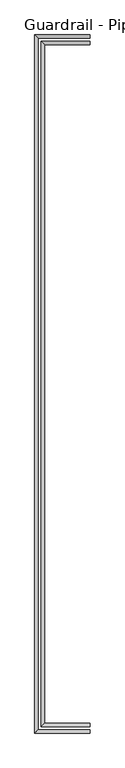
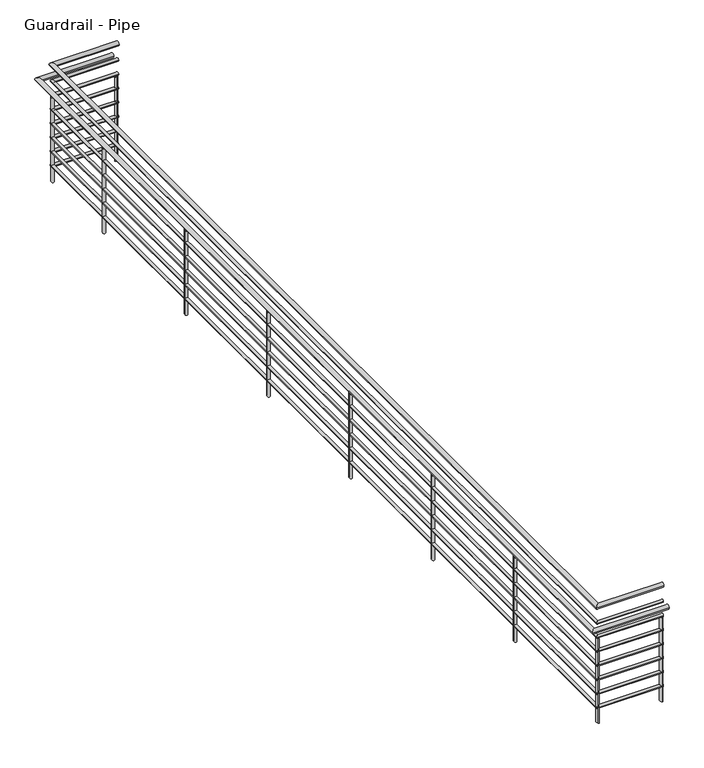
"""IFC4 building model written with IfcOpenShell, lengths in millimetres: railing geometry, Guardrail - Pipe."""

import ifcopenshell
import ifcopenshell.guid

model = None  # the IFC model being written
_history = None  # IfcOwnerHistory: only IFC2X3 demands one
_inside = {}  # id of a spatial element -> (the spatial element, [elements in it])
_under = {}  # id of a project, library or spatial element -> (it, [spatial elements below it])
_declared = {}  # id of a project -> (the project, [libraries it declares])
_typed = {}  # id of a type object -> (the type object, [elements of that type])
_made_of = {}  # id of a material, layer set ... -> (it, [elements and type objects made of it])


def new_model(schema):
    """Start an empty IFC model of exactly this schema.

    Asked for "IFC4X3", IfcOpenShell would pick the latest addendum, in which some entities
    have other attributes; the version numbers below select the first issue.
    IFC2X3 requires an IfcOwnerHistory on every rooted entity: one is made here for all.
    """
    global model, _history
    if schema == "IFC4X3":
        model = ifcopenshell.file(schema_version=(4, 3, 0, 0))
    else:
        model = ifcopenshell.file(schema=schema)
    _inside.clear()
    _under.clear()
    _declared.clear()
    _typed.clear()
    _made_of.clear()
    _history = None
    if model.schema == "IFC2X3":
        org = make("IfcOrganization", Name="unknown")
        user = make(
            "IfcPersonAndOrganization",
            ThePerson=make("IfcPerson", FamilyName="unknown"),
            TheOrganization=org,
        )
        app = make(
            "IfcApplication",
            ApplicationDeveloper=org,
            Version="unknown",
            ApplicationFullName="unknown",
            ApplicationIdentifier="unknown",
        )
        _history = make(
            "IfcOwnerHistory",
            OwningUser=user,
            OwningApplication=app,
            ChangeAction="ADDED",
            CreationDate=0,
        )
    return model


def make(cls, **values):
    """One entity of the class cls with the attributes given. An attribute that is None is left unset."""
    return model.create_entity(
        cls, **{name: value for name, value in values.items() if value is not None}
    )


def rooted(cls, **values):
    """An entity with a GlobalId (a new one), such as an element, a storey or a relation."""
    return make(cls, GlobalId=ifcopenshell.guid.new(), OwnerHistory=_history, **values)


def si_unit(unit_type, name, prefix=None):
    """IfcSIUnit, for example si_unit("LENGTHUNIT", "METRE", prefix="MILLI")."""
    return make("IfcSIUnit", UnitType=unit_type, Prefix=prefix, Name=name)


def assignment(units):
    """IfcUnitAssignment: the units of a project."""
    return None if units is None else make("IfcUnitAssignment", Units=units)


def point(xyz):
    """IfcCartesianPoint."""
    return None if xyz is None else make("IfcCartesianPoint", Coordinates=xyz)


def direction(xyz):
    """IfcDirection."""
    return None if xyz is None else make("IfcDirection", DirectionRatios=xyz)


def frame(location, z_axis=None, x_axis=None):
    """IfcAxis2Placement3D, a coordinate frame: its origin and axes. An axis left out is left unset."""
    return make(
        "IfcAxis2Placement3D",
        Location=point(location),
        Axis=direction(z_axis),
        RefDirection=direction(x_axis),
    )


def origin():
    """The frame at (0, 0, 0) with its axes left unset."""
    return frame((0.0, 0.0, 0.0))


def place(relative_to, where):
    """IfcLocalPlacement: puts the frame where relative to a parent placement (None: the world)."""
    return make(
        "IfcLocalPlacement", PlacementRelTo=relative_to, RelativePlacement=where
    )


def context(
    kind, dimensions, precision=None, world=None, true_north=None, identifier=None
):
    """IfcGeometricRepresentationContext, for example the 3D "Model" context."""
    return make(
        "IfcGeometricRepresentationContext",
        ContextIdentifier=identifier,
        ContextType=kind,
        CoordinateSpaceDimension=dimensions,
        Precision=precision,
        WorldCoordinateSystem=world,
        TrueNorth=true_north,
    )


def project(units=None, contexts=None):
    """IfcProject with its units and contexts."""
    return rooted(
        "IfcProject",
        Name="project",
        RepresentationContexts=contexts,
        UnitsInContext=assignment(units),
    )


def spatial(cls, under=None, at=None, **own):
    """A site, building, storey or space (cls), placed at a placement, below another one or the project."""
    s = rooted(cls, ObjectPlacement=at, **own)
    if under is not None:
        _under.setdefault(under.id(), (under, []))[1].append(s)
    return s


def circle_curve(where, radius):
    """IfcCircle in the frame where."""
    return make("IfcCircle", Position=where, Radius=radius)


def ellipse_curve(where, semi_axis1, semi_axis2):
    """IfcEllipse in the frame where."""
    return make(
        "IfcEllipse", Position=where, SemiAxis1=semi_axis1, SemiAxis2=semi_axis2
    )


def shape(context_of_items, identifier, shape_type, items):
    """IfcShapeRepresentation: the items that make up one representation, for example the "Body"."""
    return make(
        "IfcShapeRepresentation",
        ContextOfItems=context_of_items,
        RepresentationIdentifier=identifier,
        RepresentationType=shape_type,
        Items=items,
    )


def source(mapping_origin, context_of_items, identifier, shape_type, items):
    """IfcRepresentationMap: a shape defined once, which mapped items show again and again."""
    return make(
        "IfcRepresentationMap",
        MappingOrigin=mapping_origin,
        MappedRepresentation=shape(context_of_items, identifier, shape_type, items),
    )


def transform(
    local_origin,
    x_axis=None,
    y_axis=None,
    z_axis=None,
    scale=None,
    scale2=None,
    scale3=None,
    uniform=True,
):
    """IfcCartesianTransformationOperator3D, or its non-uniform kind. x_axis, y_axis, z_axis: its Axis1, 2, 3."""
    if uniform:
        return make(
            "IfcCartesianTransformationOperator3D",
            Axis1=direction(x_axis),
            Axis2=direction(y_axis),
            LocalOrigin=point(local_origin),
            Scale=scale,
            Axis3=direction(z_axis),
        )
    return make(
        "IfcCartesianTransformationOperator3DnonUniform",
        Axis1=direction(x_axis),
        Axis2=direction(y_axis),
        LocalOrigin=point(local_origin),
        Scale=scale,
        Axis3=direction(z_axis),
        Scale2=scale2,
        Scale3=scale3,
    )


def mapped(mapping_source, mapping_target):
    """IfcMappedItem: shows the shape of a source again, moved by a transform."""
    return make(
        "IfcMappedItem", MappingSource=mapping_source, MappingTarget=mapping_target
    )


def made_of(thing, what):
    """Note that an element or type object is made of a material, layer set ...; save() writes the relation."""
    if what is not None:
        _made_of.setdefault(what.id(), (what, []))[1].append(thing)
    return thing


def element(
    cls,
    number,
    at=None,
    inside=None,
    cuts=None,
    type_object=None,
    material=None,
    context=None,
    identifier="Body",
    shape_type=None,
    held_by="IfcProductDefinitionShape",
    body=None,
    shapes=None,
    **own,
):
    """One element of the class cls, such as IfcWall. Its Tag is "e" and its number.

    at: its placement. inside: the storey or other place that contains it. cuts: it is an
    opening in that element (IfcRelVoidsElement). A single representation is given by context,
    identifier, shape_type and body (its items); several are given by shapes. held_by: the class
    of the entity that holds the representations. save() writes the other relations.
    """
    e = rooted(cls, Tag="e%d" % number, ObjectPlacement=at, **own)
    if body is not None:
        shapes = [shape(context, identifier, shape_type, body)]
    if shapes is not None:
        e.Representation = make(held_by, Representations=shapes)
    if inside is not None:
        _inside.setdefault(inside.id(), (inside, []))[1].append(e)
    if cuts is not None:
        rooted(
            "IfcRelVoidsElement", RelatingBuildingElement=cuts, RelatedOpeningElement=e
        )
    if type_object is not None:
        _typed.setdefault(type_object.id(), (type_object, []))[1].append(e)
    return made_of(e, material)


def aggregate(whole, parts):
    """IfcRelAggregates: a whole, such as a stair, and the parts it consists of."""
    return rooted("IfcRelAggregates", RelatingObject=whole, RelatedObjects=parts)


def save(model, path):
    """Write the relations noted so far, then the file.

    IfcRelAggregates (storeys below a building ...), IfcRelContainedInSpatialStructure (elements
    in a storey), IfcRelDefinesByType, IfcRelAssociatesMaterial and IfcRelDeclares: one each for
    every whole, place, type object, material and project.
    """
    for whole, parts in _under.values():
        aggregate(whole, parts)
    for where, things in _inside.values():
        rooted(
            "IfcRelContainedInSpatialStructure",
            RelatedElements=things,
            RelatingStructure=where,
        )
    for kind, things in _typed.values():
        rooted("IfcRelDefinesByType", RelatedObjects=things, RelatingType=kind)
    for what, things in _made_of.values():
        rooted("IfcRelAssociatesMaterial", RelatedObjects=things, RelatingMaterial=what)
    for by, libraries in _declared.values():
        rooted("IfcRelDeclares", RelatingContext=by, RelatedDefinitions=libraries)
    model.write(path)


def plane_surface(at):
    """IfcPlane: the flat surface through the origin of the frame at, square to its z axis."""
    return make("IfcPlane", Position=at)


def cylinder_surface(at, radius):
    """IfcCylindricalSurface: all points at the distance radius from the z axis of the frame at."""
    return make("IfcCylindricalSurface", Position=at, Radius=radius)


def advanced_brep(points, edges, surfaces, faces):
    """IfcAdvancedBrep: a solid bounded by faces that lie on surfaces and meet in shared edges.

    An edge is (start, end): straight between two places in points (the first is 0);
    or (start, end, curve); or (start, end, curve, False) where it runs against its curve.
    A face is (place in surfaces, loops), or (place, loops, False) where it looks against
    its surface's normal. A loop lists edges by number (the first is 1), with a minus sign
    where the edge is run from its end to its start. The first loop is the outer one.
    """
    corners = [point(p) for p in points]
    vertices = [make("IfcVertexPoint", VertexGeometry=c) for c in corners]
    made = []
    for start, end, *more in edges:
        made.append(
            make(
                "IfcEdgeCurve",
                EdgeStart=vertices[start],
                EdgeEnd=vertices[end],
                EdgeGeometry=more[0] if more else make("IfcPolyline", Points=[corners[start], corners[end]]),
                SameSense=more[1] if len(more) > 1 else True,
            )
        )
    hull = []
    for where, loops, *sense in faces:
        bounds = []
        for j, loop in enumerate(loops):
            ring = [make("IfcOrientedEdge", EdgeElement=made[abs(k) - 1], Orientation=k > 0) for k in loop]
            bounds.append(
                make(
                    "IfcFaceOuterBound" if j == 0 else "IfcFaceBound",
                    Bound=make("IfcEdgeLoop", EdgeList=ring),
                    Orientation=True,
                )
            )
        hull.append(make("IfcAdvancedFace", Bounds=bounds, FaceSurface=surfaces[where], SameSense=sense[0] if sense else True))
    return make("IfcAdvancedBrep", Outer=make("IfcClosedShell", CfsFaces=hull))


def guardrail_pipe_c5bc1630(model_context):
    return source(origin(), model_context, "Body", "AdvancedBrep", [
        advanced_brep(
        [(11534.3313551, 10867.95, 4705.35), (11534.3313551, 10906.05, 4705.35), (10956.4813551, 10867.95, 4705.35), (10994.5813551, 10906.05, 4705.35), (10956.4813551, 18983.25, 4705.35), (10994.5813551, 18945.15, 4705.35), (11534.3313551, 18983.25, 4705.35), (11534.3313551, 18945.15, 4705.35)],
        [
            (0, 1, circle_curve(frame((11534.3313551, 10887.0, 4705.35), z_axis=(1.0, 0.0, 0.0), x_axis=(0.0, 1.0, 0.0)), 19.05)),
            (1, 0, circle_curve(frame((11534.3313551, 10887.0, 4705.35), z_axis=(1.0, 0.0, 0.0), x_axis=(0.0, 1.0, 0.0)), 19.05)),
            (0, 2),
            (2, 3, ellipse_curve(frame((10975.5313551, 10887.0, 4705.35), z_axis=(0.7071067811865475, -0.7071067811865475, 0.0), x_axis=(0.7071067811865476, 0.7071067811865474, 0.0)), 26.9407684, 19.05)),
            (3, 1),
            (3, 2, ellipse_curve(frame((10975.5313551, 10887.0, 4705.35), z_axis=(0.7071067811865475, -0.7071067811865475, 0.0), x_axis=(0.7071067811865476, 0.7071067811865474, 0.0)), 26.9407684, 19.05)),
            (2, 4),
            (4, 5, ellipse_curve(frame((10975.5313551, 18964.2, 4705.35), z_axis=(-0.7071067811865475, -0.7071067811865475, 0.0), x_axis=(0.7071067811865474, -0.7071067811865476, 0.0)), 26.9407684, 19.05)),
            (5, 3),
            (5, 4, ellipse_curve(frame((10975.5313551, 18964.2, 4705.35), z_axis=(-0.7071067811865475, -0.7071067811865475, 0.0), x_axis=(0.7071067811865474, -0.7071067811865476, 0.0)), 26.9407684, 19.05)),
            (6, 7, circle_curve(frame((11534.3313551, 18964.2, 4705.35), z_axis=(1.0, 0.0, 0.0), x_axis=(0.0, -1.0, 0.0)), 19.05)),
            (7, 6, circle_curve(frame((11534.3313551, 18964.2, 4705.35), z_axis=(1.0, 0.0, 0.0), x_axis=(0.0, -1.0, 0.0)), 19.05)),
            (4, 6),
            (7, 5),
        ],
        [
            plane_surface(frame((11534.3313551, 10887.0, 4724.4), z_axis=(1.0, 0.0, 0.0), x_axis=(0.0, -1.0, 0.0))),
            cylinder_surface(frame((11534.3313551, 10887.0, 4705.35), z_axis=(1.0, 0.0, 0.0), x_axis=(0.0, 1.0, 0.0)), 19.05),
            cylinder_surface(frame((10975.5313551, 10887.0, 4705.35), z_axis=(0.0, -1.0, 0.0), x_axis=(1.0, 0.0, 0.0)), 19.05),
            plane_surface(frame((11534.3313551, 18964.2, 4724.4), z_axis=(1.0, 0.0, 0.0), x_axis=(0.0, 1.0, 0.0))),
            cylinder_surface(frame((10975.5313551, 18964.2, 4705.35), z_axis=(-1.0, 0.0, 0.0), x_axis=(0.0, -1.0, 0.0)), 19.05),
        ],
        [
            (0, [[1, 2]]),
            (1, [[-1, 3, 4, 5]]),
            (1, [[-2, -5, 6, -3]]),
            (2, [[-4, 7, 8, 9]]),
            (2, [[-6, -9, 10, -7]]),
            (3, [[11, 12]]),
            (4, [[-8, 13, -12, 14]]),
            (4, [[-10, -14, -11, -13]]),
        ],
    ),
        advanced_brep(
        [(11534.3313551, 10874.3, 4559.3), (11534.3313551, 10899.7, 4559.3), (10962.8313551, 10874.3, 4559.3), (10988.2313551, 10899.7, 4559.3), (10962.8313551, 18976.9, 4559.3), (10988.2313551, 18951.5, 4559.3), (11534.3313551, 18976.9, 4559.3), (11534.3313551, 18951.5, 4559.3)],
        [
            (0, 1, circle_curve(frame((11534.3313551, 10887.0, 4559.3), z_axis=(1.0, 0.0, 0.0), x_axis=(0.0, 1.0, 0.0)), 12.7)),
            (1, 0, circle_curve(frame((11534.3313551, 10887.0, 4559.3), z_axis=(1.0, 0.0, 0.0), x_axis=(0.0, 1.0, 0.0)), 12.7)),
            (0, 2),
            (2, 3, ellipse_curve(frame((10975.5313551, 10887.0, 4559.3), z_axis=(0.7071067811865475, -0.7071067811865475, 0.0), x_axis=(0.7071067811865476, 0.7071067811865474, 0.0)), 17.9605122, 12.7)),
            (3, 1),
            (3, 2, ellipse_curve(frame((10975.5313551, 10887.0, 4559.3), z_axis=(0.7071067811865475, -0.7071067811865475, 0.0), x_axis=(0.7071067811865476, 0.7071067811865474, 0.0)), 17.9605122, 12.7)),
            (2, 4),
            (4, 5, ellipse_curve(frame((10975.5313551, 18964.2, 4559.3), z_axis=(-0.7071067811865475, -0.7071067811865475, 0.0), x_axis=(0.7071067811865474, -0.7071067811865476, 0.0)), 17.9605122, 12.7)),
            (5, 3),
            (5, 4, ellipse_curve(frame((10975.5313551, 18964.2, 4559.3), z_axis=(-0.7071067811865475, -0.7071067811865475, 0.0), x_axis=(0.7071067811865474, -0.7071067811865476, 0.0)), 17.9605122, 12.7)),
            (6, 7, circle_curve(frame((11534.3313551, 18964.2, 4559.3), z_axis=(1.0, 0.0, 0.0), x_axis=(0.0, -1.0, 0.0)), 12.7)),
            (7, 6, circle_curve(frame((11534.3313551, 18964.2, 4559.3), z_axis=(1.0, 0.0, 0.0), x_axis=(0.0, -1.0, 0.0)), 12.7)),
            (4, 6),
            (7, 5),
        ],
        [
            plane_surface(frame((11534.3313551, 10887.0, 4572.0), z_axis=(1.0, 0.0, 0.0), x_axis=(0.0, -1.0, 0.0))),
            cylinder_surface(frame((11534.3313551, 10887.0, 4559.3), z_axis=(1.0, 0.0, 0.0), x_axis=(0.0, 1.0, 0.0)), 12.7),
            cylinder_surface(frame((10975.5313551, 10887.0, 4559.3), z_axis=(0.0, -1.0, 0.0), x_axis=(1.0, 0.0, 0.0)), 12.7),
            plane_surface(frame((11534.3313551, 18964.2, 4572.0), z_axis=(1.0, 0.0, 0.0), x_axis=(0.0, 1.0, 0.0))),
            cylinder_surface(frame((10975.5313551, 18964.2, 4559.3), z_axis=(-1.0, 0.0, 0.0), x_axis=(0.0, -1.0, 0.0)), 12.7),
        ],
        [
            (0, [[1, 2]]),
            (1, [[-1, 3, 4, 5]]),
            (1, [[-2, -5, 6, -3]]),
            (2, [[-4, 7, 8, 9]]),
            (2, [[-6, -9, 10, -7]]),
            (3, [[11, 12]]),
            (4, [[-8, 13, -12, 14]]),
            (4, [[-10, -14, -11, -13]]),
        ],
    ),
        advanced_brep(
        [(11534.3313551, 10791.75, 4552.95), (11534.3313551, 10829.85, 4552.95), (10880.2813551, 10791.75, 4552.95), (10918.3813551, 10829.85, 4552.95), (10880.2813551, 19059.45, 4552.95), (10918.3813551, 19021.35, 4552.95), (11534.3313551, 19059.45, 4552.95), (11534.3313551, 19021.35, 4552.95)],
        [
            (0, 1, circle_curve(frame((11534.3313551, 10810.8, 4552.95), z_axis=(1.0, 0.0, 0.0), x_axis=(0.0, 1.0, 0.0)), 19.05)),
            (1, 0, circle_curve(frame((11534.3313551, 10810.8, 4552.95), z_axis=(1.0, 0.0, 0.0), x_axis=(0.0, 1.0, 0.0)), 19.05)),
            (0, 2),
            (2, 3, ellipse_curve(frame((10899.3313551, 10810.8, 4552.95), z_axis=(0.7071067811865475, -0.7071067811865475, 0.0), x_axis=(0.7071067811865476, 0.7071067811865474, 0.0)), 26.9407684, 19.05)),
            (3, 1),
            (3, 2, ellipse_curve(frame((10899.3313551, 10810.8, 4552.95), z_axis=(0.7071067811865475, -0.7071067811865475, 0.0), x_axis=(0.7071067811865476, 0.7071067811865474, 0.0)), 26.9407684, 19.05)),
            (2, 4),
            (4, 5, ellipse_curve(frame((10899.3313551, 19040.4, 4552.95), z_axis=(-0.7071067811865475, -0.7071067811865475, 0.0), x_axis=(0.7071067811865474, -0.7071067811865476, 0.0)), 26.9407684, 19.05)),
            (5, 3),
            (5, 4, ellipse_curve(frame((10899.3313551, 19040.4, 4552.95), z_axis=(-0.7071067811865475, -0.7071067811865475, 0.0), x_axis=(0.7071067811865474, -0.7071067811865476, 0.0)), 26.9407684, 19.05)),
            (6, 7, circle_curve(frame((11534.3313551, 19040.4, 4552.95), z_axis=(1.0, 0.0, 0.0), x_axis=(0.0, -1.0, 0.0)), 19.05)),
            (7, 6, circle_curve(frame((11534.3313551, 19040.4, 4552.95), z_axis=(1.0, 0.0, 0.0), x_axis=(0.0, -1.0, 0.0)), 19.05)),
            (4, 6),
            (7, 5),
        ],
        [
            plane_surface(frame((11534.3313551, 10810.8, 4572.0), z_axis=(1.0, 0.0, 0.0), x_axis=(0.0, -1.0, 0.0))),
            cylinder_surface(frame((11534.3313551, 10810.8, 4552.95), z_axis=(1.0, 0.0, 0.0), x_axis=(0.0, 1.0, 0.0)), 19.05),
            cylinder_surface(frame((10899.3313551, 10810.8, 4552.95), z_axis=(0.0, -1.0, 0.0), x_axis=(1.0, 0.0, 0.0)), 19.05),
            plane_surface(frame((11534.3313551, 19040.4, 4572.0), z_axis=(1.0, 0.0, 0.0), x_axis=(0.0, 1.0, 0.0))),
            cylinder_surface(frame((10899.3313551, 19040.4, 4552.95), z_axis=(-1.0, 0.0, 0.0), x_axis=(0.0, -1.0, 0.0)), 19.05),
        ],
        [
            (0, [[1, 2]]),
            (1, [[-1, 3, 4, 5]]),
            (1, [[-2, -5, 6, -3]]),
            (2, [[-4, 7, 8, 9]]),
            (2, [[-6, -9, 10, -7]]),
            (3, [[11, 12]]),
            (4, [[-8, 13, -12, 14]]),
            (4, [[-10, -14, -11, -13]]),
        ],
    ),
        advanced_brep(
        [(11534.3313551, 10874.3, 4432.3), (11534.3313551, 10899.7, 4432.3), (10962.8313551, 10874.3, 4432.3), (10988.2313551, 10899.7, 4432.3), (10962.8313551, 18976.9, 4432.3), (10988.2313551, 18951.5, 4432.3), (11534.3313551, 18976.9, 4432.3), (11534.3313551, 18951.5, 4432.3)],
        [
            (0, 1, circle_curve(frame((11534.3313551, 10887.0, 4432.3), z_axis=(1.0, 0.0, 0.0), x_axis=(0.0, 1.0, 0.0)), 12.7)),
            (1, 0, circle_curve(frame((11534.3313551, 10887.0, 4432.3), z_axis=(1.0, 0.0, 0.0), x_axis=(0.0, 1.0, 0.0)), 12.7)),
            (0, 2),
            (2, 3, ellipse_curve(frame((10975.5313551, 10887.0, 4432.3), z_axis=(0.7071067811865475, -0.7071067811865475, 0.0), x_axis=(0.7071067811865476, 0.7071067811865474, 0.0)), 17.9605122, 12.7)),
            (3, 1),
            (3, 2, ellipse_curve(frame((10975.5313551, 10887.0, 4432.3), z_axis=(0.7071067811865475, -0.7071067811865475, 0.0), x_axis=(0.7071067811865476, 0.7071067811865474, 0.0)), 17.9605122, 12.7)),
            (2, 4),
            (4, 5, ellipse_curve(frame((10975.5313551, 18964.2, 4432.3), z_axis=(-0.7071067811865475, -0.7071067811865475, 0.0), x_axis=(0.7071067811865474, -0.7071067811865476, 0.0)), 17.9605122, 12.7)),
            (5, 3),
            (5, 4, ellipse_curve(frame((10975.5313551, 18964.2, 4432.3), z_axis=(-0.7071067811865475, -0.7071067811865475, 0.0), x_axis=(0.7071067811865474, -0.7071067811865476, 0.0)), 17.9605122, 12.7)),
            (6, 7, circle_curve(frame((11534.3313551, 18964.2, 4432.3), z_axis=(1.0, 0.0, 0.0), x_axis=(0.0, -1.0, 0.0)), 12.7)),
            (7, 6, circle_curve(frame((11534.3313551, 18964.2, 4432.3), z_axis=(1.0, 0.0, 0.0), x_axis=(0.0, -1.0, 0.0)), 12.7)),
            (4, 6),
            (7, 5),
        ],
        [
            plane_surface(frame((11534.3313551, 10887.0, 4445.0), z_axis=(1.0, 0.0, 0.0), x_axis=(0.0, -1.0, 0.0))),
            cylinder_surface(frame((11534.3313551, 10887.0, 4432.3), z_axis=(1.0, 0.0, 0.0), x_axis=(0.0, 1.0, 0.0)), 12.7),
            cylinder_surface(frame((10975.5313551, 10887.0, 4432.3), z_axis=(0.0, -1.0, 0.0), x_axis=(1.0, 0.0, 0.0)), 12.7),
            plane_surface(frame((11534.3313551, 18964.2, 4445.0), z_axis=(1.0, 0.0, 0.0), x_axis=(0.0, 1.0, 0.0))),
            cylinder_surface(frame((10975.5313551, 18964.2, 4432.3), z_axis=(-1.0, 0.0, 0.0), x_axis=(0.0, -1.0, 0.0)), 12.7),
        ],
        [
            (0, [[1, 2]]),
            (1, [[-1, 3, 4, 5]]),
            (1, [[-2, -5, 6, -3]]),
            (2, [[-4, 7, 8, 9]]),
            (2, [[-6, -9, 10, -7]]),
            (3, [[11, 12]]),
            (4, [[-8, 13, -12, 14]]),
            (4, [[-10, -14, -11, -13]]),
        ],
    ),
        advanced_brep(
        [(11534.3313551, 10874.3, 4305.3), (11534.3313551, 10899.7, 4305.3), (10962.8313551, 10874.3, 4305.3), (10988.2313551, 10899.7, 4305.3), (10962.8313551, 18976.9, 4305.3), (10988.2313551, 18951.5, 4305.3), (11534.3313551, 18976.9, 4305.3), (11534.3313551, 18951.5, 4305.3)],
        [
            (0, 1, circle_curve(frame((11534.3313551, 10887.0, 4305.3), z_axis=(1.0, 0.0, 0.0), x_axis=(0.0, 1.0, 0.0)), 12.7)),
            (1, 0, circle_curve(frame((11534.3313551, 10887.0, 4305.3), z_axis=(1.0, 0.0, 0.0), x_axis=(0.0, 1.0, 0.0)), 12.7)),
            (0, 2),
            (2, 3, ellipse_curve(frame((10975.5313551, 10887.0, 4305.3), z_axis=(0.7071067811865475, -0.7071067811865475, 0.0), x_axis=(0.7071067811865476, 0.7071067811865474, 0.0)), 17.9605122, 12.7)),
            (3, 1),
            (3, 2, ellipse_curve(frame((10975.5313551, 10887.0, 4305.3), z_axis=(0.7071067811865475, -0.7071067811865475, 0.0), x_axis=(0.7071067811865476, 0.7071067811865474, 0.0)), 17.9605122, 12.7)),
            (2, 4),
            (4, 5, ellipse_curve(frame((10975.5313551, 18964.2, 4305.3), z_axis=(-0.7071067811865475, -0.7071067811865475, 0.0), x_axis=(0.7071067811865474, -0.7071067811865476, 0.0)), 17.9605122, 12.7)),
            (5, 3),
            (5, 4, ellipse_curve(frame((10975.5313551, 18964.2, 4305.3), z_axis=(-0.7071067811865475, -0.7071067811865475, 0.0), x_axis=(0.7071067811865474, -0.7071067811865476, 0.0)), 17.9605122, 12.7)),
            (6, 7, circle_curve(frame((11534.3313551, 18964.2, 4305.3), z_axis=(1.0, 0.0, 0.0), x_axis=(0.0, -1.0, 0.0)), 12.7)),
            (7, 6, circle_curve(frame((11534.3313551, 18964.2, 4305.3), z_axis=(1.0, 0.0, 0.0), x_axis=(0.0, -1.0, 0.0)), 12.7)),
            (4, 6),
            (7, 5),
        ],
        [
            plane_surface(frame((11534.3313551, 10887.0, 4318.0), z_axis=(1.0, 0.0, 0.0), x_axis=(0.0, -1.0, 0.0))),
            cylinder_surface(frame((11534.3313551, 10887.0, 4305.3), z_axis=(1.0, 0.0, 0.0), x_axis=(0.0, 1.0, 0.0)), 12.7),
            cylinder_surface(frame((10975.5313551, 10887.0, 4305.3), z_axis=(0.0, -1.0, 0.0), x_axis=(1.0, 0.0, 0.0)), 12.7),
            plane_surface(frame((11534.3313551, 18964.2, 4318.0), z_axis=(1.0, 0.0, 0.0), x_axis=(0.0, 1.0, 0.0))),
            cylinder_surface(frame((10975.5313551, 18964.2, 4305.3), z_axis=(-1.0, 0.0, 0.0), x_axis=(0.0, -1.0, 0.0)), 12.7),
        ],
        [
            (0, [[1, 2]]),
            (1, [[-1, 3, 4, 5]]),
            (1, [[-2, -5, 6, -3]]),
            (2, [[-4, 7, 8, 9]]),
            (2, [[-6, -9, 10, -7]]),
            (3, [[11, 12]]),
            (4, [[-8, 13, -12, 14]]),
            (4, [[-10, -14, -11, -13]]),
        ],
    ),
        advanced_brep(
        [(11534.3313551, 10874.3, 4178.3), (11534.3313551, 10899.7, 4178.3), (10962.8313551, 10874.3, 4178.3), (10988.2313551, 10899.7, 4178.3), (10962.8313551, 18976.9, 4178.3), (10988.2313551, 18951.5, 4178.3), (11534.3313551, 18976.9, 4178.3), (11534.3313551, 18951.5, 4178.3)],
        [
            (0, 1, circle_curve(frame((11534.3313551, 10887.0, 4178.3), z_axis=(1.0, 0.0, 0.0), x_axis=(0.0, 1.0, 0.0)), 12.7)),
            (1, 0, circle_curve(frame((11534.3313551, 10887.0, 4178.3), z_axis=(1.0, 0.0, 0.0), x_axis=(0.0, 1.0, 0.0)), 12.7)),
            (0, 2),
            (2, 3, ellipse_curve(frame((10975.5313551, 10887.0, 4178.3), z_axis=(0.7071067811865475, -0.7071067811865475, 0.0), x_axis=(0.7071067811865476, 0.7071067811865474, 0.0)), 17.9605122, 12.7)),
            (3, 1),
            (3, 2, ellipse_curve(frame((10975.5313551, 10887.0, 4178.3), z_axis=(0.7071067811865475, -0.7071067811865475, 0.0), x_axis=(0.7071067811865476, 0.7071067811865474, 0.0)), 17.9605122, 12.7)),
            (2, 4),
            (4, 5, ellipse_curve(frame((10975.5313551, 18964.2, 4178.3), z_axis=(-0.7071067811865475, -0.7071067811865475, 0.0), x_axis=(0.7071067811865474, -0.7071067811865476, 0.0)), 17.9605122, 12.7)),
            (5, 3),
            (5, 4, ellipse_curve(frame((10975.5313551, 18964.2, 4178.3), z_axis=(-0.7071067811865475, -0.7071067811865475, 0.0), x_axis=(0.7071067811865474, -0.7071067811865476, 0.0)), 17.9605122, 12.7)),
            (6, 7, circle_curve(frame((11534.3313551, 18964.2, 4178.3), z_axis=(1.0, 0.0, 0.0), x_axis=(0.0, -1.0, 0.0)), 12.7)),
            (7, 6, circle_curve(frame((11534.3313551, 18964.2, 4178.3), z_axis=(1.0, 0.0, 0.0), x_axis=(0.0, -1.0, 0.0)), 12.7)),
            (4, 6),
            (7, 5),
        ],
        [
            plane_surface(frame((11534.3313551, 10887.0, 4191.0), z_axis=(1.0, 0.0, 0.0), x_axis=(0.0, -1.0, 0.0))),
            cylinder_surface(frame((11534.3313551, 10887.0, 4178.3), z_axis=(1.0, 0.0, 0.0), x_axis=(0.0, 1.0, 0.0)), 12.7),
            cylinder_surface(frame((10975.5313551, 10887.0, 4178.3), z_axis=(0.0, -1.0, 0.0), x_axis=(1.0, 0.0, 0.0)), 12.7),
            plane_surface(frame((11534.3313551, 18964.2, 4191.0), z_axis=(1.0, 0.0, 0.0), x_axis=(0.0, 1.0, 0.0))),
            cylinder_surface(frame((10975.5313551, 18964.2, 4178.3), z_axis=(-1.0, 0.0, 0.0), x_axis=(0.0, -1.0, 0.0)), 12.7),
        ],
        [
            (0, [[1, 2]]),
            (1, [[-1, 3, 4, 5]]),
            (1, [[-2, -5, 6, -3]]),
            (2, [[-4, 7, 8, 9]]),
            (2, [[-6, -9, 10, -7]]),
            (3, [[11, 12]]),
            (4, [[-8, 13, -12, 14]]),
            (4, [[-10, -14, -11, -13]]),
        ],
    ),
        advanced_brep(
        [(11534.3313551, 10874.3, 4051.3), (11534.3313551, 10899.7, 4051.3), (10962.8313551, 10874.3, 4051.3), (10988.2313551, 10899.7, 4051.3), (10962.8313551, 18976.9, 4051.3), (10988.2313551, 18951.5, 4051.3), (11534.3313551, 18976.9, 4051.3), (11534.3313551, 18951.5, 4051.3)],
        [
            (0, 1, circle_curve(frame((11534.3313551, 10887.0, 4051.3), z_axis=(1.0, 0.0, 0.0), x_axis=(0.0, 1.0, 0.0)), 12.7)),
            (1, 0, circle_curve(frame((11534.3313551, 10887.0, 4051.3), z_axis=(1.0, 0.0, 0.0), x_axis=(0.0, 1.0, 0.0)), 12.7)),
            (0, 2),
            (2, 3, ellipse_curve(frame((10975.5313551, 10887.0, 4051.3), z_axis=(0.7071067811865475, -0.7071067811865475, 0.0), x_axis=(0.7071067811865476, 0.7071067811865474, 0.0)), 17.9605122, 12.7)),
            (3, 1),
            (3, 2, ellipse_curve(frame((10975.5313551, 10887.0, 4051.3), z_axis=(0.7071067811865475, -0.7071067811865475, 0.0), x_axis=(0.7071067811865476, 0.7071067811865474, 0.0)), 17.9605122, 12.7)),
            (2, 4),
            (4, 5, ellipse_curve(frame((10975.5313551, 18964.2, 4051.3), z_axis=(-0.7071067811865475, -0.7071067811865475, 0.0), x_axis=(0.7071067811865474, -0.7071067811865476, 0.0)), 17.9605122, 12.7)),
            (5, 3),
            (5, 4, ellipse_curve(frame((10975.5313551, 18964.2, 4051.3), z_axis=(-0.7071067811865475, -0.7071067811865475, 0.0), x_axis=(0.7071067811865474, -0.7071067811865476, 0.0)), 17.9605122, 12.7)),
            (6, 7, circle_curve(frame((11534.3313551, 18964.2, 4051.3), z_axis=(1.0, 0.0, 0.0), x_axis=(0.0, -1.0, 0.0)), 12.7)),
            (7, 6, circle_curve(frame((11534.3313551, 18964.2, 4051.3), z_axis=(1.0, 0.0, 0.0), x_axis=(0.0, -1.0, 0.0)), 12.7)),
            (4, 6),
            (7, 5),
        ],
        [
            plane_surface(frame((11534.3313551, 10887.0, 4064.0), z_axis=(1.0, 0.0, 0.0), x_axis=(0.0, -1.0, 0.0))),
            cylinder_surface(frame((11534.3313551, 10887.0, 4051.3), z_axis=(1.0, 0.0, 0.0), x_axis=(0.0, 1.0, 0.0)), 12.7),
            cylinder_surface(frame((10975.5313551, 10887.0, 4051.3), z_axis=(0.0, -1.0, 0.0), x_axis=(1.0, 0.0, 0.0)), 12.7),
            plane_surface(frame((11534.3313551, 18964.2, 4064.0), z_axis=(1.0, 0.0, 0.0), x_axis=(0.0, 1.0, 0.0))),
            cylinder_surface(frame((10975.5313551, 18964.2, 4051.3), z_axis=(-1.0, 0.0, 0.0), x_axis=(0.0, -1.0, 0.0)), 12.7),
        ],
        [
            (0, [[1, 2]]),
            (1, [[-1, 3, 4, 5]]),
            (1, [[-2, -5, 6, -3]]),
            (2, [[-4, 7, 8, 9]]),
            (2, [[-6, -9, 10, -7]]),
            (3, [[11, 12]]),
            (4, [[-8, 13, -12, 14]]),
            (4, [[-10, -14, -11, -13]]),
        ],
    ),
        advanced_brep(
        [(11534.3313551, 10874.3, 3924.3), (11534.3313551, 10899.7, 3924.3), (10962.8313551, 10874.3, 3924.3), (10988.2313551, 10899.7, 3924.3), (10962.8313551, 18976.9, 3924.3), (10988.2313551, 18951.5, 3924.3), (11534.3313551, 18976.9, 3924.3), (11534.3313551, 18951.5, 3924.3)],
        [
            (0, 1, circle_curve(frame((11534.3313551, 10887.0, 3924.3), z_axis=(1.0, 0.0, 0.0), x_axis=(0.0, 1.0, 0.0)), 12.7)),
            (1, 0, circle_curve(frame((11534.3313551, 10887.0, 3924.3), z_axis=(1.0, 0.0, 0.0), x_axis=(0.0, 1.0, 0.0)), 12.7)),
            (0, 2),
            (2, 3, ellipse_curve(frame((10975.5313551, 10887.0, 3924.3), z_axis=(0.7071067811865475, -0.7071067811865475, 0.0), x_axis=(0.7071067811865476, 0.7071067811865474, 0.0)), 17.9605122, 12.7)),
            (3, 1),
            (3, 2, ellipse_curve(frame((10975.5313551, 10887.0, 3924.3), z_axis=(0.7071067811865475, -0.7071067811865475, 0.0), x_axis=(0.7071067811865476, 0.7071067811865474, 0.0)), 17.9605122, 12.7)),
            (2, 4),
            (4, 5, ellipse_curve(frame((10975.5313551, 18964.2, 3924.3), z_axis=(-0.7071067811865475, -0.7071067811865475, 0.0), x_axis=(0.7071067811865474, -0.7071067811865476, 0.0)), 17.9605122, 12.7)),
            (5, 3),
            (5, 4, ellipse_curve(frame((10975.5313551, 18964.2, 3924.3), z_axis=(-0.7071067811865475, -0.7071067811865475, 0.0), x_axis=(0.7071067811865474, -0.7071067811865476, 0.0)), 17.9605122, 12.7)),
            (6, 7, circle_curve(frame((11534.3313551, 18964.2, 3924.3), z_axis=(1.0, 0.0, 0.0), x_axis=(0.0, -1.0, 0.0)), 12.7)),
            (7, 6, circle_curve(frame((11534.3313551, 18964.2, 3924.3), z_axis=(1.0, 0.0, 0.0), x_axis=(0.0, -1.0, 0.0)), 12.7)),
            (4, 6),
            (7, 5),
        ],
        [
            plane_surface(frame((11534.3313551, 10887.0, 3937.0), z_axis=(1.0, 0.0, 0.0), x_axis=(0.0, -1.0, 0.0))),
            cylinder_surface(frame((11534.3313551, 10887.0, 3924.3), z_axis=(1.0, 0.0, 0.0), x_axis=(0.0, 1.0, 0.0)), 12.7),
            cylinder_surface(frame((10975.5313551, 10887.0, 3924.3), z_axis=(0.0, -1.0, 0.0), x_axis=(1.0, 0.0, 0.0)), 12.7),
            plane_surface(frame((11534.3313551, 18964.2, 3937.0), z_axis=(1.0, 0.0, 0.0), x_axis=(0.0, 1.0, 0.0))),
            cylinder_surface(frame((10975.5313551, 18964.2, 3924.3), z_axis=(-1.0, 0.0, 0.0), x_axis=(0.0, -1.0, 0.0)), 12.7),
        ],
        [
            (0, [[1, 2]]),
            (1, [[-1, 3, 4, 5]]),
            (1, [[-2, -5, 6, -3]]),
            (2, [[-4, 7, 8, 9]]),
            (2, [[-6, -9, 10, -7]]),
            (3, [[11, 12]]),
            (4, [[-8, 13, -12, 14]]),
            (4, [[-10, -14, -11, -13]]),
        ],
    ),
        advanced_brep(
        [(11534.3313551, 10874.3, 3797.3), (11534.3313551, 10899.7, 3797.3), (10962.8313551, 10874.3, 3797.3), (10988.2313551, 10899.7, 3797.3), (10962.8313551, 18976.9, 3797.3), (10988.2313551, 18951.5, 3797.3), (11534.3313551, 18976.9, 3797.3), (11534.3313551, 18951.5, 3797.3)],
        [
            (0, 1, circle_curve(frame((11534.3313551, 10887.0, 3797.3), z_axis=(1.0, 0.0, 0.0), x_axis=(0.0, 1.0, 0.0)), 12.7)),
            (1, 0, circle_curve(frame((11534.3313551, 10887.0, 3797.3), z_axis=(1.0, 0.0, 0.0), x_axis=(0.0, 1.0, 0.0)), 12.7)),
            (0, 2),
            (2, 3, ellipse_curve(frame((10975.5313551, 10887.0, 3797.3), z_axis=(0.7071067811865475, -0.7071067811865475, 0.0), x_axis=(0.7071067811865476, 0.7071067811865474, 0.0)), 17.9605122, 12.7)),
            (3, 1),
            (3, 2, ellipse_curve(frame((10975.5313551, 10887.0, 3797.3), z_axis=(0.7071067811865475, -0.7071067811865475, 0.0), x_axis=(0.7071067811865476, 0.7071067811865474, 0.0)), 17.9605122, 12.7)),
            (2, 4),
            (4, 5, ellipse_curve(frame((10975.5313551, 18964.2, 3797.3), z_axis=(-0.7071067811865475, -0.7071067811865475, 0.0), x_axis=(0.7071067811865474, -0.7071067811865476, 0.0)), 17.9605122, 12.7)),
            (5, 3),
            (5, 4, ellipse_curve(frame((10975.5313551, 18964.2, 3797.3), z_axis=(-0.7071067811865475, -0.7071067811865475, 0.0), x_axis=(0.7071067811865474, -0.7071067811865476, 0.0)), 17.9605122, 12.7)),
            (6, 7, circle_curve(frame((11534.3313551, 18964.2, 3797.3), z_axis=(1.0, 0.0, 0.0), x_axis=(0.0, -1.0, 0.0)), 12.7)),
            (7, 6, circle_curve(frame((11534.3313551, 18964.2, 3797.3), z_axis=(1.0, 0.0, 0.0), x_axis=(0.0, -1.0, 0.0)), 12.7)),
            (4, 6),
            (7, 5),
        ],
        [
            plane_surface(frame((11534.3313551, 10887.0, 3810.0), z_axis=(1.0, 0.0, 0.0), x_axis=(0.0, -1.0, 0.0))),
            cylinder_surface(frame((11534.3313551, 10887.0, 3797.3), z_axis=(1.0, 0.0, 0.0), x_axis=(0.0, 1.0, 0.0)), 12.7),
            cylinder_surface(frame((10975.5313551, 10887.0, 3797.3), z_axis=(0.0, -1.0, 0.0), x_axis=(1.0, 0.0, 0.0)), 12.7),
            plane_surface(frame((11534.3313551, 18964.2, 3810.0), z_axis=(1.0, 0.0, 0.0), x_axis=(0.0, 1.0, 0.0))),
            cylinder_surface(frame((10975.5313551, 18964.2, 3797.3), z_axis=(-1.0, 0.0, 0.0), x_axis=(0.0, -1.0, 0.0)), 12.7),
        ],
        [
            (0, [[1, 2]]),
            (1, [[-1, 3, 4, 5]]),
            (1, [[-2, -5, 6, -3]]),
            (2, [[-4, 7, 8, 9]]),
            (2, [[-6, -9, 10, -7]]),
            (3, [[11, 12]]),
            (4, [[-8, 13, -12, 14]]),
            (4, [[-10, -14, -11, -13]]),
        ],
    ),
        advanced_brep(
        [(10988.2313551, 18202.2, 4419.6), (10988.2313551, 18202.2, 3657.6), (10962.8313551, 18202.2, 3657.6), (10962.8313551, 18202.2, 4419.6)],
        [
            (0, 1),
            (1, 2, ellipse_curve(frame((10975.5313551, 18202.2, 3657.6), z_axis=(0.0, -0.536857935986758, 0.8436726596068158), x_axis=(0.0, 0.8436726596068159, 0.536857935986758)), 15.0532317, 12.7)),
            (2, 3),
            (3, 0, ellipse_curve(frame((10975.5313551, 18202.2, 4419.6), z_axis=(0.0, 0.5368579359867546, -0.8436726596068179), x_axis=(0.0, 0.843672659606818, 0.5368579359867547)), 15.0532317, 12.7)),
            (0, 3, ellipse_curve(frame((10975.5313551, 18202.2, 4419.6), z_axis=(0.0, 0.5368579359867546, -0.8436726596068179), x_axis=(0.0, 0.843672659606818, 0.5368579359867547)), 15.0532317, 12.7)),
            (2, 1, ellipse_curve(frame((10975.5313551, 18202.2, 3657.6), z_axis=(0.0, -0.536857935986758, 0.8436726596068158), x_axis=(0.0, 0.8436726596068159, 0.536857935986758)), 15.0532317, 12.7)),
        ],
        [
            cylinder_surface(frame((10975.5313551, 18202.2, 3429.0), z_axis=(0.0, 0.0, 1.0), x_axis=(-1.0, 0.0, 0.0)), 12.7),
            plane_surface(frame((10950.1313551, 18227.6, 4435.7628938), z_axis=(0.0, -0.5368579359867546, 0.8436726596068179), x_axis=(1.0, 0.0, 0.0))),
            plane_surface(frame((10950.1313551, 18176.8, 3641.4371062), z_axis=(0.0, 0.536857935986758, -0.8436726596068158), x_axis=(1.0, 0.0, 0.0))),
        ],
        [
            (0, [[1, 2, 3, 4]]),
            (0, [[-1, 5, -3, 6]]),
            (1, [[-4, -5]]),
            (2, [[-2, -6]]),
        ],
    ),
        advanced_brep(
        [(10988.2313551, 16983.0, 4419.6), (10988.2313551, 16983.0, 3657.6), (10962.8313551, 16983.0, 3657.6), (10962.8313551, 16983.0, 4419.6)],
        [
            (0, 1),
            (1, 2, ellipse_curve(frame((10975.5313551, 16983.0, 3657.6), z_axis=(0.0, -0.536857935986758, 0.8436726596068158), x_axis=(0.0, 0.8436726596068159, 0.536857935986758)), 15.0532317, 12.7)),
            (2, 3),
            (3, 0, ellipse_curve(frame((10975.5313551, 16983.0, 4419.6), z_axis=(0.0, 0.5368579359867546, -0.8436726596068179), x_axis=(0.0, 0.843672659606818, 0.5368579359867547)), 15.0532317, 12.7)),
            (0, 3, ellipse_curve(frame((10975.5313551, 16983.0, 4419.6), z_axis=(0.0, 0.5368579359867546, -0.8436726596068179), x_axis=(0.0, 0.843672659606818, 0.5368579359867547)), 15.0532317, 12.7)),
            (2, 1, ellipse_curve(frame((10975.5313551, 16983.0, 3657.6), z_axis=(0.0, -0.536857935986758, 0.8436726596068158), x_axis=(0.0, 0.8436726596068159, 0.536857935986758)), 15.0532317, 12.7)),
        ],
        [
            cylinder_surface(frame((10975.5313551, 16983.0, 3429.0), z_axis=(0.0, 0.0, 1.0), x_axis=(-1.0, 0.0, 0.0)), 12.7),
            plane_surface(frame((10950.1313551, 17008.4, 4435.7628938), z_axis=(0.0, -0.5368579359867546, 0.8436726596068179), x_axis=(1.0, 0.0, 0.0))),
            plane_surface(frame((10950.1313551, 16957.6, 3641.4371062), z_axis=(0.0, 0.536857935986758, -0.8436726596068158), x_axis=(1.0, 0.0, 0.0))),
        ],
        [
            (0, [[1, 2, 3, 4]]),
            (0, [[-1, 5, -3, 6]]),
            (1, [[-4, -5]]),
            (2, [[-2, -6]]),
        ],
    ),
        advanced_brep(
        [(10988.2313551, 15763.8, 4419.6), (10988.2313551, 15763.8, 3657.6), (10962.8313551, 15763.8, 3657.6), (10962.8313551, 15763.8, 4419.6)],
        [
            (0, 1),
            (1, 2, ellipse_curve(frame((10975.5313551, 15763.8, 3657.6), z_axis=(0.0, -0.536857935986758, 0.8436726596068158), x_axis=(0.0, 0.8436726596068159, 0.536857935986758)), 15.0532317, 12.7)),
            (2, 3),
            (3, 0, ellipse_curve(frame((10975.5313551, 15763.8, 4419.6), z_axis=(0.0, 0.5368579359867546, -0.8436726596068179), x_axis=(0.0, 0.843672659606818, 0.5368579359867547)), 15.0532317, 12.7)),
            (0, 3, ellipse_curve(frame((10975.5313551, 15763.8, 4419.6), z_axis=(0.0, 0.5368579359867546, -0.8436726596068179), x_axis=(0.0, 0.843672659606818, 0.5368579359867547)), 15.0532317, 12.7)),
            (2, 1, ellipse_curve(frame((10975.5313551, 15763.8, 3657.6), z_axis=(0.0, -0.536857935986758, 0.8436726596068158), x_axis=(0.0, 0.8436726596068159, 0.536857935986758)), 15.0532317, 12.7)),
        ],
        [
            cylinder_surface(frame((10975.5313551, 15763.8, 3429.0), z_axis=(0.0, 0.0, 1.0), x_axis=(-1.0, 0.0, 0.0)), 12.7),
            plane_surface(frame((10950.1313551, 15789.2, 4435.7628938), z_axis=(0.0, -0.5368579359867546, 0.8436726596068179), x_axis=(1.0, 0.0, 0.0))),
            plane_surface(frame((10950.1313551, 15738.4, 3641.4371062), z_axis=(0.0, 0.536857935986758, -0.8436726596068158), x_axis=(1.0, 0.0, 0.0))),
        ],
        [
            (0, [[1, 2, 3, 4]]),
            (0, [[-1, 5, -3, 6]]),
            (1, [[-4, -5]]),
            (2, [[-2, -6]]),
        ],
    ),
        advanced_brep(
        [(10988.2313551, 14544.6, 4419.6), (10988.2313551, 14544.6, 3657.6), (10962.8313551, 14544.6, 3657.6), (10962.8313551, 14544.6, 4419.6)],
        [
            (0, 1),
            (1, 2, ellipse_curve(frame((10975.5313551, 14544.6, 3657.6), z_axis=(0.0, -0.536857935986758, 0.8436726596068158), x_axis=(0.0, 0.8436726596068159, 0.536857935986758)), 15.0532317, 12.7)),
            (2, 3),
            (3, 0, ellipse_curve(frame((10975.5313551, 14544.6, 4419.6), z_axis=(0.0, 0.5368579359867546, -0.8436726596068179), x_axis=(0.0, 0.843672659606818, 0.5368579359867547)), 15.0532317, 12.7)),
            (0, 3, ellipse_curve(frame((10975.5313551, 14544.6, 4419.6), z_axis=(0.0, 0.5368579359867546, -0.8436726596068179), x_axis=(0.0, 0.843672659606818, 0.5368579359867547)), 15.0532317, 12.7)),
            (2, 1, ellipse_curve(frame((10975.5313551, 14544.6, 3657.6), z_axis=(0.0, -0.536857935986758, 0.8436726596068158), x_axis=(0.0, 0.8436726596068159, 0.536857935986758)), 15.0532317, 12.7)),
        ],
        [
            cylinder_surface(frame((10975.5313551, 14544.6, 3429.0), z_axis=(0.0, 0.0, 1.0), x_axis=(-1.0, 0.0, 0.0)), 12.7),
            plane_surface(frame((10950.1313551, 14570.0, 4435.7628938), z_axis=(0.0, -0.5368579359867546, 0.8436726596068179), x_axis=(1.0, 0.0, 0.0))),
            plane_surface(frame((10950.1313551, 14519.2, 3641.4371062), z_axis=(0.0, 0.536857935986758, -0.8436726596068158), x_axis=(1.0, 0.0, 0.0))),
        ],
        [
            (0, [[1, 2, 3, 4]]),
            (0, [[-1, 5, -3, 6]]),
            (1, [[-4, -5]]),
            (2, [[-2, -6]]),
        ],
    ),
        advanced_brep(
        [(10988.2313551, 13325.4, 4419.6), (10988.2313551, 13325.4, 3657.6), (10962.8313551, 13325.4, 3657.6), (10962.8313551, 13325.4, 4419.6)],
        [
            (0, 1),
            (1, 2, ellipse_curve(frame((10975.5313551, 13325.4, 3657.6), z_axis=(0.0, -0.536857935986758, 0.8436726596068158), x_axis=(0.0, 0.8436726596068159, 0.536857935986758)), 15.0532317, 12.7)),
            (2, 3),
            (3, 0, ellipse_curve(frame((10975.5313551, 13325.4, 4419.6), z_axis=(0.0, 0.5368579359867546, -0.8436726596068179), x_axis=(0.0, 0.843672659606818, 0.5368579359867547)), 15.0532317, 12.7)),
            (0, 3, ellipse_curve(frame((10975.5313551, 13325.4, 4419.6), z_axis=(0.0, 0.5368579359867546, -0.8436726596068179), x_axis=(0.0, 0.843672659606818, 0.5368579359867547)), 15.0532317, 12.7)),
            (2, 1, ellipse_curve(frame((10975.5313551, 13325.4, 3657.6), z_axis=(0.0, -0.536857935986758, 0.8436726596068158), x_axis=(0.0, 0.8436726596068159, 0.536857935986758)), 15.0532317, 12.7)),
        ],
        [
            cylinder_surface(frame((10975.5313551, 13325.4, 3429.0), z_axis=(0.0, 0.0, 1.0), x_axis=(-1.0, 0.0, 0.0)), 12.7),
            plane_surface(frame((10950.1313551, 13350.8, 4435.7628938), z_axis=(0.0, -0.5368579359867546, 0.8436726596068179), x_axis=(1.0, 0.0, 0.0))),
            plane_surface(frame((10950.1313551, 13300.0, 3641.4371062), z_axis=(0.0, 0.536857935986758, -0.8436726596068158), x_axis=(1.0, 0.0, 0.0))),
        ],
        [
            (0, [[1, 2, 3, 4]]),
            (0, [[-1, 5, -3, 6]]),
            (1, [[-4, -5]]),
            (2, [[-2, -6]]),
        ],
    ),
        advanced_brep(
        [(10988.2313551, 12106.2, 4419.6), (10988.2313551, 12106.2, 3657.6), (10962.8313551, 12106.2, 3657.6), (10962.8313551, 12106.2, 4419.6)],
        [
            (0, 1),
            (1, 2, ellipse_curve(frame((10975.5313551, 12106.2, 3657.6), z_axis=(0.0, -0.536857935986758, 0.8436726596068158), x_axis=(0.0, 0.8436726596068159, 0.536857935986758)), 15.0532317, 12.7)),
            (2, 3),
            (3, 0, ellipse_curve(frame((10975.5313551, 12106.2, 4419.6), z_axis=(0.0, 0.5368579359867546, -0.8436726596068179), x_axis=(0.0, 0.843672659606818, 0.5368579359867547)), 15.0532317, 12.7)),
            (0, 3, ellipse_curve(frame((10975.5313551, 12106.2, 4419.6), z_axis=(0.0, 0.5368579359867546, -0.8436726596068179), x_axis=(0.0, 0.843672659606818, 0.5368579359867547)), 15.0532317, 12.7)),
            (2, 1, ellipse_curve(frame((10975.5313551, 12106.2, 3657.6), z_axis=(0.0, -0.536857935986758, 0.8436726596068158), x_axis=(0.0, 0.8436726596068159, 0.536857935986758)), 15.0532317, 12.7)),
        ],
        [
            cylinder_surface(frame((10975.5313551, 12106.2, 3429.0), z_axis=(0.0, 0.0, 1.0), x_axis=(-1.0, 0.0, 0.0)), 12.7),
            plane_surface(frame((10950.1313551, 12131.6, 4435.7628938), z_axis=(0.0, -0.5368579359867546, 0.8436726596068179), x_axis=(1.0, 0.0, 0.0))),
            plane_surface(frame((10950.1313551, 12080.8, 3641.4371062), z_axis=(0.0, 0.536857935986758, -0.8436726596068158), x_axis=(1.0, 0.0, 0.0))),
        ],
        [
            (0, [[1, 2, 3, 4]]),
            (0, [[-1, 5, -3, 6]]),
            (1, [[-4, -5]]),
            (2, [[-2, -6]]),
        ],
    ),
        advanced_brep(
        [(10988.2313551, 18964.2, 4419.6), (10988.2313551, 18964.2, 3657.6), (10962.8313551, 18964.2, 3657.6), (10962.8313551, 18964.2, 4419.6)],
        [
            (0, 1),
            (1, 2, ellipse_curve(frame((10975.5313551, 18964.2, 3657.6), z_axis=(0.0, -0.536857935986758, 0.8436726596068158), x_axis=(0.0, 0.8436726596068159, 0.536857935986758)), 15.0532317, 12.7)),
            (2, 3),
            (3, 0, ellipse_curve(frame((10975.5313551, 18964.2, 4419.6), z_axis=(0.0, 0.5368579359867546, -0.8436726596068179), x_axis=(0.0, 0.843672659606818, 0.5368579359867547)), 15.0532317, 12.7)),
            (0, 3, ellipse_curve(frame((10975.5313551, 18964.2, 4419.6), z_axis=(0.0, 0.5368579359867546, -0.8436726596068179), x_axis=(0.0, 0.843672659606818, 0.5368579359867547)), 15.0532317, 12.7)),
            (2, 1, ellipse_curve(frame((10975.5313551, 18964.2, 3657.6), z_axis=(0.0, -0.536857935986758, 0.8436726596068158), x_axis=(0.0, 0.8436726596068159, 0.536857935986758)), 15.0532317, 12.7)),
        ],
        [
            cylinder_surface(frame((10975.5313551, 18964.2, 3429.0), z_axis=(0.0, 0.0, 1.0), x_axis=(-1.0, 0.0, 0.0)), 12.7),
            plane_surface(frame((10950.1313551, 18989.6, 4435.7628938), z_axis=(0.0, -0.5368579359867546, 0.8436726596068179), x_axis=(1.0, 0.0, 0.0))),
            plane_surface(frame((10950.1313551, 18938.8, 3641.4371062), z_axis=(0.0, 0.536857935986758, -0.8436726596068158), x_axis=(1.0, 0.0, 0.0))),
        ],
        [
            (0, [[1, 2, 3, 4]]),
            (0, [[-1, 5, -3, 6]]),
            (1, [[-4, -5]]),
            (2, [[-2, -6]]),
        ],
    ),
        advanced_brep(
        [(10975.5313551, 10899.7, 4419.6), (10975.5313551, 10899.7, 3657.6), (10975.5313551, 10874.3, 3657.6), (10975.5313551, 10874.3, 4419.6)],
        [
            (0, 1),
            (1, 2, ellipse_curve(frame((10975.5313551, 10887.0, 3657.6), z_axis=(0.536857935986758, 0.0, 0.8436726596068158), x_axis=(-0.8436726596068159, 0.0, 0.536857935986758)), 15.0532317, 12.7)),
            (2, 3),
            (3, 0, ellipse_curve(frame((10975.5313551, 10887.0, 4419.6), z_axis=(-0.5368579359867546, 0.0, -0.8436726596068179), x_axis=(-0.843672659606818, 0.0, 0.5368579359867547)), 15.0532317, 12.7)),
            (0, 3, ellipse_curve(frame((10975.5313551, 10887.0, 4419.6), z_axis=(-0.5368579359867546, 0.0, -0.8436726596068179), x_axis=(-0.843672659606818, 0.0, 0.5368579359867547)), 15.0532317, 12.7)),
            (2, 1, ellipse_curve(frame((10975.5313551, 10887.0, 3657.6), z_axis=(0.536857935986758, 0.0, 0.8436726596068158), x_axis=(-0.8436726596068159, 0.0, 0.536857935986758)), 15.0532317, 12.7)),
        ],
        [
            cylinder_surface(frame((10975.5313551, 10887.0, 3429.0), z_axis=(0.0, 0.0, 1.0), x_axis=(0.0, -1.0, 0.0)), 12.7),
            plane_surface(frame((10950.1313551, 10861.6, 4435.7628938), z_axis=(0.5368579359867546, 0.0, 0.8436726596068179), x_axis=(0.0, 1.0, 0.0))),
            plane_surface(frame((11000.9313551, 10861.6, 3641.4371062), z_axis=(-0.536857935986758, 0.0, -0.8436726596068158), x_axis=(0.0, 1.0, 0.0))),
        ],
        [
            (0, [[1, 2, 3, 4]]),
            (0, [[-1, 5, -3, 6]]),
            (1, [[-4, -5]]),
            (2, [[-2, -6]]),
        ],
    ),
        advanced_brep(
        [(11521.6313551, 18951.5, 4419.6), (11521.6313551, 18951.5, 3657.6), (11521.6313551, 18976.9, 3657.6), (11521.6313551, 18976.9, 4419.6)],
        [
            (0, 1),
            (1, 2, ellipse_curve(frame((11521.6313551, 18964.2, 3657.6), z_axis=(-0.536857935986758, 0.0, 0.8436726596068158), x_axis=(0.8436726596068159, 0.0, 0.536857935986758)), 15.0532317, 12.7)),
            (2, 3),
            (3, 0, ellipse_curve(frame((11521.6313551, 18964.2, 4419.6), z_axis=(0.5368579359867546, 0.0, -0.8436726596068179), x_axis=(0.843672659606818, 0.0, 0.5368579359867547)), 15.0532317, 12.7)),
            (0, 3, ellipse_curve(frame((11521.6313551, 18964.2, 4419.6), z_axis=(0.5368579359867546, 0.0, -0.8436726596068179), x_axis=(0.843672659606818, 0.0, 0.5368579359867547)), 15.0532317, 12.7)),
            (2, 1, ellipse_curve(frame((11521.6313551, 18964.2, 3657.6), z_axis=(-0.536857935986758, 0.0, 0.8436726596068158), x_axis=(0.8436726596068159, 0.0, 0.536857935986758)), 15.0532317, 12.7)),
        ],
        [
            cylinder_surface(frame((11521.6313551, 18964.2, 3429.0), z_axis=(0.0, 0.0, 1.0), x_axis=(0.0, 1.0, 0.0)), 12.7),
            plane_surface(frame((11547.0313551, 18989.6, 4435.7628938), z_axis=(-0.5368579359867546, 0.0, 0.8436726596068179), x_axis=(0.0, -1.0, 0.0))),
            plane_surface(frame((11496.2313551, 18989.6, 3641.4371062), z_axis=(0.536857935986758, 0.0, -0.8436726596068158), x_axis=(0.0, -1.0, 0.0))),
        ],
        [
            (0, [[1, 2, 3, 4]]),
            (0, [[-1, 5, -3, 6]]),
            (1, [[-4, -5]]),
            (2, [[-2, -6]]),
        ],
    ),
        advanced_brep(
        [(11521.6313551, 10899.7, 4419.6), (11521.6313551, 10899.7, 3657.6), (11521.6313551, 10874.3, 3657.6), (11521.6313551, 10874.3, 4419.6)],
        [
            (0, 1),
            (1, 2, ellipse_curve(frame((11521.6313551, 10887.0, 3657.6), z_axis=(0.536857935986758, 0.0, 0.8436726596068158), x_axis=(-0.8436726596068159, 0.0, 0.536857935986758)), 15.0532317, 12.7)),
            (2, 3),
            (3, 0, ellipse_curve(frame((11521.6313551, 10887.0, 4419.6), z_axis=(-0.5368579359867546, 0.0, -0.8436726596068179), x_axis=(-0.843672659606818, 0.0, 0.5368579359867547)), 15.0532317, 12.7)),
            (0, 3, ellipse_curve(frame((11521.6313551, 10887.0, 4419.6), z_axis=(-0.5368579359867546, 0.0, -0.8436726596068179), x_axis=(-0.843672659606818, 0.0, 0.5368579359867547)), 15.0532317, 12.7)),
            (2, 1, ellipse_curve(frame((11521.6313551, 10887.0, 3657.6), z_axis=(0.536857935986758, 0.0, 0.8436726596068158), x_axis=(-0.8436726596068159, 0.0, 0.536857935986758)), 15.0532317, 12.7)),
        ],
        [
            cylinder_surface(frame((11521.6313551, 10887.0, 3429.0), z_axis=(0.0, 0.0, 1.0), x_axis=(0.0, -1.0, 0.0)), 12.7),
            plane_surface(frame((11496.2313551, 10861.6, 4435.7628938), z_axis=(0.5368579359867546, 0.0, 0.8436726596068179), x_axis=(0.0, 1.0, 0.0))),
            plane_surface(frame((11547.0313551, 10861.6, 3641.4371062), z_axis=(-0.536857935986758, 0.0, -0.8436726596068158), x_axis=(0.0, 1.0, 0.0))),
        ],
        [
            (0, [[1, 2, 3, 4]]),
            (0, [[-1, 5, -3, 6]]),
            (1, [[-4, -5]]),
            (2, [[-2, -6]]),
        ],
    ),
    ])


if __name__ == "__main__":
    model = new_model("IFC4")
    model_context = context("Model", 3, world=origin())
    ifc_project = project(units=[si_unit("LENGTHUNIT", "METRE", prefix="MILLI")], contexts=[model_context])
    site = spatial("IfcSite", under=ifc_project)
    building = spatial("IfcBuilding", under=site)
    placement = place(None, origin())
    guardrail_pipe_shape = guardrail_pipe_c5bc1630(model_context)
    element("IfcRailing", 1, ObjectType="Guardrail - Pipe", at=placement, inside=building, context=model_context, shape_type="MappedRepresentation", body=[
        mapped(guardrail_pipe_shape, transform((0.0, 0.0, 0.0), x_axis=(1.0, 0.0, 0.0), y_axis=(0.0, 1.0, 0.0), z_axis=(0.0, 0.0, 1.0))),
    ])
    save(model, "model.ifc")
